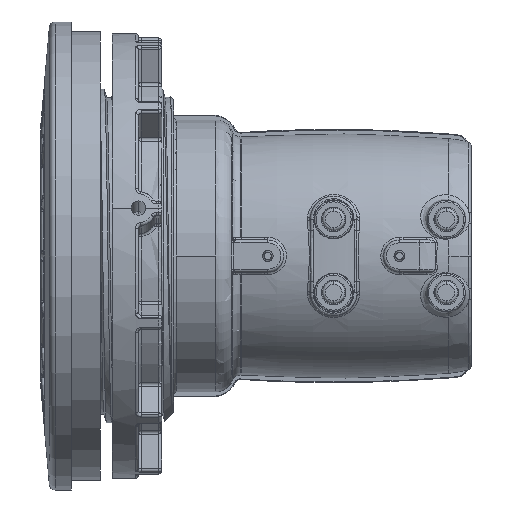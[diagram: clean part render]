
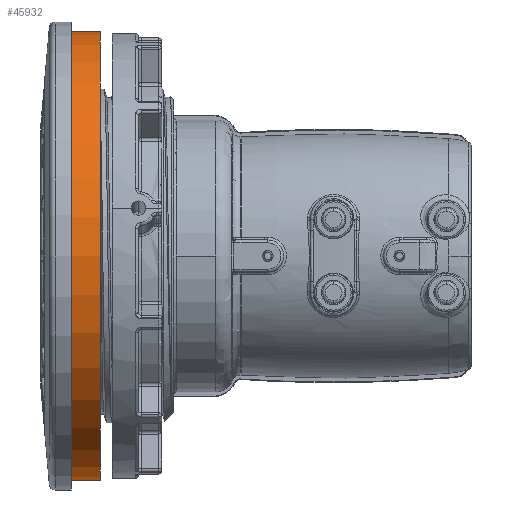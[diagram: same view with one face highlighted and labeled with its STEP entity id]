
A CAD part, left-side view. The second image highlights one B-rep face of the part: STEP entity #45932.
In plain terms, the highlighted cylindrical face has radius 76.75 mm (diameter 153.5 mm), a partial arc.
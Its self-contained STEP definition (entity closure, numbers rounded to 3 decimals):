
#5314 = FACE_OUTER_BOUND ( 'NONE', #45866, .T. ) ;
#5322 = AXIS2_PLACEMENT_3D ( 'NONE', #5329, #5350, #5349 ) ;
#5326 = CYLINDRICAL_SURFACE ( 'NONE', #5322, 76.75 ) ;
#5327 = AXIS2_PLACEMENT_3D ( 'NONE', #5369, #5368, #5367 ) ;
#5329 = CARTESIAN_POINT ( 'NONE',  ( 0., 57.391, 0. ) ) ;
#5349 = DIRECTION ( 'NONE',  ( 0., 0., -1. ) ) ;
#5350 = DIRECTION ( 'NONE',  ( 0., -1., 0. ) ) ;
#5367 = DIRECTION ( 'NONE',  ( 0., 0., -1. ) ) ;
#5368 = DIRECTION ( 'NONE',  ( 0., -1., 0. ) ) ;
#5369 = CARTESIAN_POINT ( 'NONE',  ( 0., 57.391, 0. ) ) ;
#5370 = CIRCLE ( 'NONE', #5327, 76.75 ) ;
#13660 = CARTESIAN_POINT ( 'NONE',  ( 0., 67.391, 76.75 ) ) ;
#13686 = CARTESIAN_POINT ( 'NONE',  ( 0., 57.391, -76.75 ) ) ;
#15335 = CARTESIAN_POINT ( 'NONE',  ( 0., 67.391, -76.75 ) ) ;
#15337 = LINE ( 'NONE', #15385, #15384 ) ;
#15383 = DIRECTION ( 'NONE',  ( 0., -1., 0. ) ) ;
#15384 = VECTOR ( 'NONE', #15383, 1000. ) ;
#15385 = CARTESIAN_POINT ( 'NONE',  ( 0., 57.391, 76.75 ) ) ;
#15492 = DIRECTION ( 'NONE',  ( 0., -1., 0. ) ) ;
#15493 = VECTOR ( 'NONE', #15492, 1000. ) ;
#15494 = CARTESIAN_POINT ( 'NONE',  ( 0., 57.391, -76.75 ) ) ;
#15495 = LINE ( 'NONE', #15494, #15493 ) ;
#15520 = CARTESIAN_POINT ( 'NONE',  ( 0., 57.391, 76.75 ) ) ;
#42020 = EDGE_CURVE ( 'NONE', #48847, #49695, #63799, .T. ) ;
#45866 = EDGE_LOOP ( 'NONE', ( #45935, #45927, #45934, #45911 ) ) ;
#45911 = ORIENTED_EDGE ( 'NONE', *, *, #45931, .F. ) ;
#45927 = ORIENTED_EDGE ( 'NONE', *, *, #42020, .T. ) ;
#45931 = EDGE_CURVE ( 'NONE', #49802, #48828, #5370, .T. ) ;
#45932 = ADVANCED_FACE ( 'NONE', ( #5314 ), #5326, .T. ) ;
#45934 = ORIENTED_EDGE ( 'NONE', *, *, #49787, .T. ) ;
#45935 = ORIENTED_EDGE ( 'NONE', *, *, #49694, .F. ) ;
#48828 = VERTEX_POINT ( 'NONE', #13686 ) ;
#48847 = VERTEX_POINT ( 'NONE', #13660 ) ;
#49694 = EDGE_CURVE ( 'NONE', #48847, #49802, #15337, .T. ) ;
#49695 = VERTEX_POINT ( 'NONE', #15335 ) ;
#49787 = EDGE_CURVE ( 'NONE', #49695, #48828, #15495, .T. ) ;
#49802 = VERTEX_POINT ( 'NONE', #15520 ) ;
#63743 = AXIS2_PLACEMENT_3D ( 'NONE', #63752, #63794, #63793 ) ;
#63752 = CARTESIAN_POINT ( 'NONE',  ( 0., 67.391, 0. ) ) ;
#63793 = DIRECTION ( 'NONE',  ( 0., 0., 1. ) ) ;
#63794 = DIRECTION ( 'NONE',  ( 0., -1., 0. ) ) ;
#63799 = CIRCLE ( 'NONE', #63743, 76.75 ) ;
